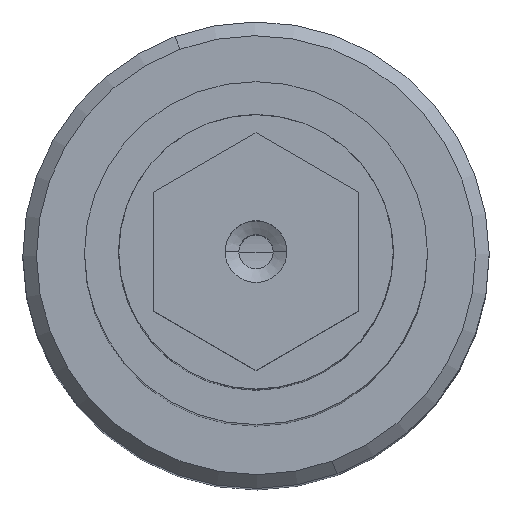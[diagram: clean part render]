
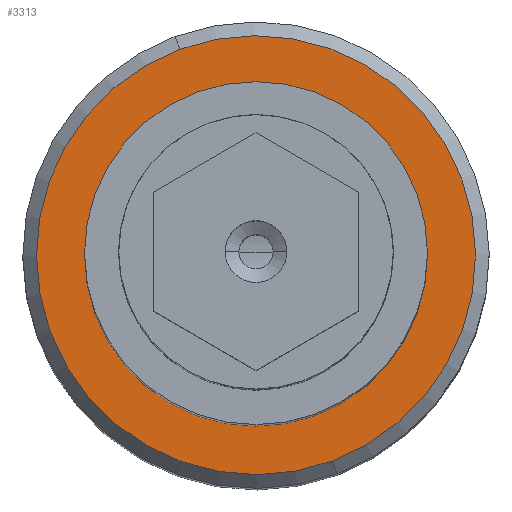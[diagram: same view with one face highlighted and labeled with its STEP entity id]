
A CAD part, top view. The second image highlights one B-rep face of the part: STEP entity #3313.
In plain terms, the highlighted planar face has unit normal (0, 0, 1).
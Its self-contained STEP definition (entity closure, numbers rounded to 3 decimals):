
#68 = EDGE_CURVE ( 'NONE', #3097, #4900, #6149, .T. ) ;
#168 = CARTESIAN_POINT ( 'NONE',  ( 0., 0., 10. ) ) ;
#200 = CARTESIAN_POINT ( 'NONE',  ( 0., 0., 10. ) ) ;
#389 = CIRCLE ( 'NONE', #1449, 32. ) ;
#442 = DIRECTION ( 'NONE',  ( -1., 0., 0. ) ) ;
#1062 = DIRECTION ( 'NONE',  ( -1., 0., 0. ) ) ;
#1344 = CARTESIAN_POINT ( 'NONE',  ( -20.2, 0., 10. ) ) ;
#1357 = VERTEX_POINT ( 'NONE', #4760 ) ;
#1449 = AXIS2_PLACEMENT_3D ( 'NONE', #4906, #1824, #442 ) ;
#1482 = EDGE_LOOP ( 'NONE', ( #6806, #6995 ) ) ;
#1499 = CARTESIAN_POINT ( 'NONE',  ( -32., 0., 10. ) ) ;
#1578 = DIRECTION ( 'NONE',  ( -1., 0., 0. ) ) ;
#1824 = DIRECTION ( 'NONE',  ( 0., 0., 1. ) ) ;
#2384 = DIRECTION ( 'NONE',  ( -1., 0., 0. ) ) ;
#2719 = EDGE_CURVE ( 'NONE', #4900, #3097, #5998, .T. ) ;
#2957 = EDGE_CURVE ( 'NONE', #9174, #1357, #389, .T. ) ;
#3068 = DIRECTION ( 'NONE',  ( -1., 0., 0. ) ) ;
#3097 = VERTEX_POINT ( 'NONE', #1344 ) ;
#3158 = ORIENTED_EDGE ( 'NONE', *, *, #68, .F. ) ;
#3313 = ADVANCED_FACE ( 'NONE', ( #5279, #7466 ), #6753, .F. ) ;
#3873 = AXIS2_PLACEMENT_3D ( 'NONE', #200, #8889, #2384 ) ;
#4157 = EDGE_CURVE ( 'NONE', #1357, #9174, #5398, .T. ) ;
#4611 = CARTESIAN_POINT ( 'NONE',  ( 0., 0., 10. ) ) ;
#4671 = DIRECTION ( 'NONE',  ( 0., 0., 1. ) ) ;
#4760 = CARTESIAN_POINT ( 'NONE',  ( 32., 0., 10. ) ) ;
#4900 = VERTEX_POINT ( 'NONE', #5346 ) ;
#4906 = CARTESIAN_POINT ( 'NONE',  ( 0., 0., 10. ) ) ;
#5244 = AXIS2_PLACEMENT_3D ( 'NONE', #4611, #5991, #1578 ) ;
#5279 = FACE_OUTER_BOUND ( 'NONE', #1482, .T. ) ;
#5346 = CARTESIAN_POINT ( 'NONE',  ( 20.2, 0., 10. ) ) ;
#5398 = CIRCLE ( 'NONE', #8286, 32. ) ;
#5848 = AXIS2_PLACEMENT_3D ( 'NONE', #8332, #6101, #3068 ) ;
#5991 = DIRECTION ( 'NONE',  ( 0., 0., -1. ) ) ;
#5998 = CIRCLE ( 'NONE', #5848, 20.2 ) ;
#6011 = ORIENTED_EDGE ( 'NONE', *, *, #2719, .F. ) ;
#6101 = DIRECTION ( 'NONE',  ( 0., 0., 1. ) ) ;
#6149 = CIRCLE ( 'NONE', #3873, 20.2 ) ;
#6753 = PLANE ( 'NONE',  #5244 ) ;
#6806 = ORIENTED_EDGE ( 'NONE', *, *, #2957, .T. ) ;
#6995 = ORIENTED_EDGE ( 'NONE', *, *, #4157, .T. ) ;
#7137 = EDGE_LOOP ( 'NONE', ( #3158, #6011 ) ) ;
#7466 = FACE_BOUND ( 'NONE', #7137, .T. ) ;
#8286 = AXIS2_PLACEMENT_3D ( 'NONE', #168, #4671, #1062 ) ;
#8332 = CARTESIAN_POINT ( 'NONE',  ( 0., 0., 10. ) ) ;
#8889 = DIRECTION ( 'NONE',  ( 0., 0., 1. ) ) ;
#9174 = VERTEX_POINT ( 'NONE', #1499 ) ;
